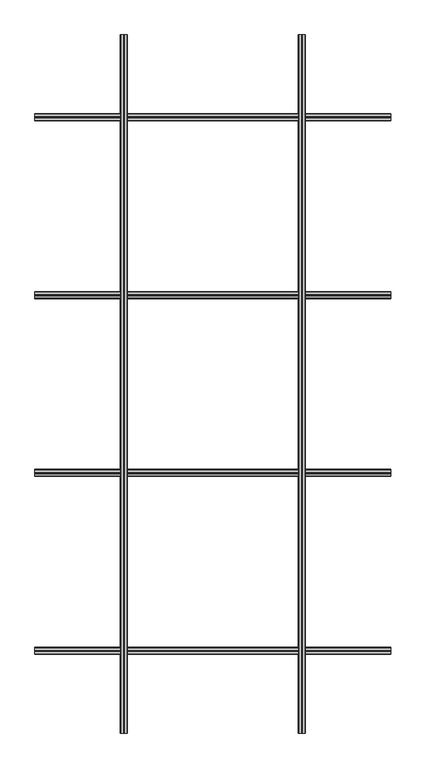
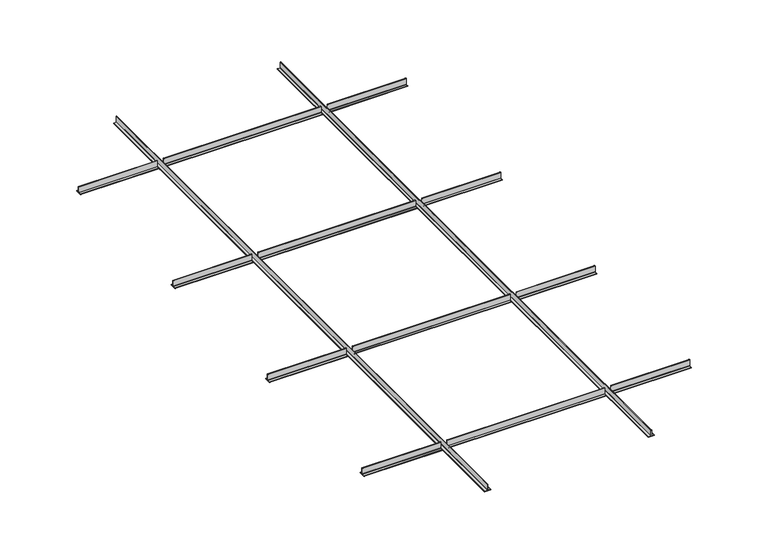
"""IFC4 building model written with IfcOpenShell, lengths in millimetres: proxy geometry, modelo_altus 2.3dm."""

from ifc_helpers import new_model, si_unit, point, frame, frame_2d, origin, place, context, project, spatial, polyline, circle_curve, trimmed, segment, composite_curve, outline, extrude, source, transform, mapped, element, save


def generic_models_6d13eddf(model_context):
    return source(origin(), model_context, "Body", "SweptSolid", [
        extrude(outline(composite_curve([segment(trimmed(circle_curve(frame_2d((956.7183647, -37.5843423)), 0.8), [point((956.7183647, -38.3843423))], [point((955.9183647, -37.5843423))], False, "CARTESIAN"), True, "CONTINUOUS"), segment(polyline([(955.9183647, -37.5843423), (955.9183647, -37.1843423)]), True, "CONTINUOUS"), segment(trimmed(circle_curve(frame_2d((956.7183647, -37.1843423)), 0.8), [point((955.9183647, -37.1843423))], [point((956.7183647, -36.3843423))], False, "CARTESIAN"), True, "CONTINUOUS"), segment(polyline([(956.7183647, -36.3843423), (966.1183647, -36.5088944)]), True, "CONTINUOUS"), segment(trimmed(circle_curve(frame_2d((966.1183647, -35.7088944)), 0.8), [point((966.1183647, -36.5088944))], [point((966.9183647, -35.7088944))], True, "CARTESIAN"), True, "CONTINUOUS"), segment(polyline([(966.9183647, -35.7088944), (966.8771783, -13.7843423)]), True, "CONTINUOUS"), segment(trimmed(circle_curve(frame_2d((967.6771783, -13.7843423)), 0.8), [point((966.8771783, -13.7843423))], [point((967.6771783, -12.9843423))], False, "CARTESIAN"), True, "CONTINUOUS"), segment(polyline([(967.6771783, -12.9843423), (968.1183647, -12.9843423)]), True, "CONTINUOUS"), segment(trimmed(circle_curve(frame_2d((968.1183647, -13.7843423)), 0.8), [point((968.1183647, -12.9843423))], [point((968.9183647, -13.7843423))], False, "CARTESIAN"), True, "CONTINUOUS"), segment(polyline([(968.9183647, -13.7843423), (968.9183647, -35.5843423)]), True, "CONTINUOUS"), segment(trimmed(circle_curve(frame_2d((969.7183647, -35.5843423)), 0.8), [point((968.9183647, -35.5843423))], [point((969.7183647, -36.3843423))], True, "CARTESIAN"), True, "CONTINUOUS"), segment(polyline([(969.7183647, -36.3843423), (979.1183647, -36.3967521)]), True, "CONTINUOUS"), segment(trimmed(circle_curve(frame_2d((979.1183647, -37.1967521)), 0.8), [point((979.1183647, -36.3967521))], [point((979.9183647, -37.1967521))], False, "CARTESIAN"), True, "CONTINUOUS"), segment(polyline([(979.9183647, -37.1967521), (979.9183647, -37.5843423)]), True, "CONTINUOUS"), segment(trimmed(circle_curve(frame_2d((979.1183647, -37.5843423)), 0.8), [point((979.9183647, -37.5843423))], [point((979.1183647, -38.3843423))], False, "CARTESIAN"), True, "CONTINUOUS"), segment(polyline([(979.1183647, -38.3843423), (956.7183647, -38.3843423)]), True, "CONTINUOUS")], self_intersect=False)), frame((-8739.7029996, 0.0, 0.0), z_axis=(1.0, 0.0, 0.0), x_axis=(0.0, 1.0, 0.0)), (0.0, 0.0, 1.0), 293.0),
        extrude(outline(composite_curve([segment(trimmed(circle_curve(frame_2d((346.7183647, -37.5843423)), 0.8), [point((346.7183647, -38.3843423))], [point((345.9183647, -37.5843423))], False, "CARTESIAN"), True, "CONTINUOUS"), segment(polyline([(345.9183647, -37.5843423), (345.9183647, -37.1843423)]), True, "CONTINUOUS"), segment(trimmed(circle_curve(frame_2d((346.7183647, -37.1843423)), 0.8), [point((345.9183647, -37.1843423))], [point((346.7183647, -36.3843423))], False, "CARTESIAN"), True, "CONTINUOUS"), segment(polyline([(346.7183647, -36.3843423), (356.1183647, -36.5088944)]), True, "CONTINUOUS"), segment(trimmed(circle_curve(frame_2d((356.1183647, -35.7088944)), 0.8), [point((356.1183647, -36.5088944))], [point((356.9183647, -35.7088944))], True, "CARTESIAN"), True, "CONTINUOUS"), segment(polyline([(356.9183647, -35.7088944), (356.8771783, -13.7843423)]), True, "CONTINUOUS"), segment(trimmed(circle_curve(frame_2d((357.6771783, -13.7843423)), 0.8), [point((356.8771783, -13.7843423))], [point((357.6771783, -12.9843423))], False, "CARTESIAN"), True, "CONTINUOUS"), segment(polyline([(357.6771783, -12.9843423), (358.1183647, -12.9843423)]), True, "CONTINUOUS"), segment(trimmed(circle_curve(frame_2d((358.1183647, -13.7843423)), 0.8), [point((358.1183647, -12.9843423))], [point((358.9183647, -13.7843423))], False, "CARTESIAN"), True, "CONTINUOUS"), segment(polyline([(358.9183647, -13.7843423), (358.9183647, -35.5843423)]), True, "CONTINUOUS"), segment(trimmed(circle_curve(frame_2d((359.7183647, -35.5843423)), 0.8), [point((358.9183647, -35.5843423))], [point((359.7183647, -36.3843423))], True, "CARTESIAN"), True, "CONTINUOUS"), segment(polyline([(359.7183647, -36.3843423), (369.1183647, -36.3967521)]), True, "CONTINUOUS"), segment(trimmed(circle_curve(frame_2d((369.1183647, -37.1967521)), 0.8), [point((369.1183647, -36.3967521))], [point((369.9183647, -37.1967521))], False, "CARTESIAN"), True, "CONTINUOUS"), segment(polyline([(369.9183647, -37.1967521), (369.9183647, -37.5843423)]), True, "CONTINUOUS"), segment(trimmed(circle_curve(frame_2d((369.1183647, -37.5843423)), 0.8), [point((369.9183647, -37.5843423))], [point((369.1183647, -38.3843423))], False, "CARTESIAN"), True, "CONTINUOUS"), segment(polyline([(369.1183647, -38.3843423), (346.7183647, -38.3843423)]), True, "CONTINUOUS")], self_intersect=False)), frame((-8739.7029996, 0.0, 0.0), z_axis=(1.0, 0.0, 0.0), x_axis=(0.0, 1.0, 0.0)), (0.0, 0.0, 1.0), 293.0),
        extrude(outline(composite_curve([segment(trimmed(circle_curve(frame_2d((-263.2816353, -37.5843423)), 0.8), [point((-263.2816353, -38.3843423))], [point((-264.0816353, -37.5843423))], False, "CARTESIAN"), True, "CONTINUOUS"), segment(polyline([(-264.0816353, -37.5843423), (-264.0816353, -37.1843423)]), True, "CONTINUOUS"), segment(trimmed(circle_curve(frame_2d((-263.2816353, -37.1843423)), 0.8), [point((-264.0816353, -37.1843423))], [point((-263.2816353, -36.3843423))], False, "CARTESIAN"), True, "CONTINUOUS"), segment(polyline([(-263.2816353, -36.3843423), (-253.8816353, -36.5088944)]), True, "CONTINUOUS"), segment(trimmed(circle_curve(frame_2d((-253.8816353, -35.7088944)), 0.8), [point((-253.8816353, -36.5088944))], [point((-253.0816353, -35.7088944))], True, "CARTESIAN"), True, "CONTINUOUS"), segment(polyline([(-253.0816353, -35.7088944), (-253.1228217, -13.7843423)]), True, "CONTINUOUS"), segment(trimmed(circle_curve(frame_2d((-252.3228217, -13.7843423)), 0.8), [point((-253.1228217, -13.7843423))], [point((-252.3228217, -12.9843423))], False, "CARTESIAN"), True, "CONTINUOUS"), segment(polyline([(-252.3228217, -12.9843423), (-251.8816353, -12.9843423)]), True, "CONTINUOUS"), segment(trimmed(circle_curve(frame_2d((-251.8816353, -13.7843423)), 0.8), [point((-251.8816353, -12.9843423))], [point((-251.0816353, -13.7843423))], False, "CARTESIAN"), True, "CONTINUOUS"), segment(polyline([(-251.0816353, -13.7843423), (-251.0816353, -35.5843423)]), True, "CONTINUOUS"), segment(trimmed(circle_curve(frame_2d((-250.2816353, -35.5843423)), 0.8), [point((-251.0816353, -35.5843423))], [point((-250.2816353, -36.3843423))], True, "CARTESIAN"), True, "CONTINUOUS"), segment(polyline([(-250.2816353, -36.3843423), (-240.8816353, -36.3967521)]), True, "CONTINUOUS"), segment(trimmed(circle_curve(frame_2d((-240.8816353, -37.1967521)), 0.8), [point((-240.8816353, -36.3967521))], [point((-240.0816353, -37.1967521))], False, "CARTESIAN"), True, "CONTINUOUS"), segment(polyline([(-240.0816353, -37.1967521), (-240.0816353, -37.5843423)]), True, "CONTINUOUS"), segment(trimmed(circle_curve(frame_2d((-240.8816353, -37.5843423)), 0.8), [point((-240.0816353, -37.5843423))], [point((-240.8816353, -38.3843423))], False, "CARTESIAN"), True, "CONTINUOUS"), segment(polyline([(-240.8816353, -38.3843423), (-263.2816353, -38.3843423)]), True, "CONTINUOUS")], self_intersect=False)), frame((-8739.7029996, 0.0, 0.0), z_axis=(1.0, 0.0, 0.0), x_axis=(0.0, 1.0, 0.0)), (0.0, 0.0, 1.0), 293.0),
        extrude(outline(composite_curve([segment(trimmed(circle_curve(frame_2d((1566.7183647, -37.5843423)), 0.8), [point((1566.7183647, -38.3843423))], [point((1565.9183647, -37.5843423))], False, "CARTESIAN"), True, "CONTINUOUS"), segment(polyline([(1565.9183647, -37.5843423), (1565.9183647, -37.1843423)]), True, "CONTINUOUS"), segment(trimmed(circle_curve(frame_2d((1566.7183647, -37.1843423)), 0.8), [point((1565.9183647, -37.1843423))], [point((1566.7183647, -36.3843423))], False, "CARTESIAN"), True, "CONTINUOUS"), segment(polyline([(1566.7183647, -36.3843423), (1576.1183647, -36.5088944)]), True, "CONTINUOUS"), segment(trimmed(circle_curve(frame_2d((1576.1183647, -35.7088944)), 0.8), [point((1576.1183647, -36.5088944))], [point((1576.9183647, -35.7088944))], True, "CARTESIAN"), True, "CONTINUOUS"), segment(polyline([(1576.9183647, -35.7088944), (1576.8771783, -13.7843423)]), True, "CONTINUOUS"), segment(trimmed(circle_curve(frame_2d((1577.6771783, -13.7843423)), 0.8), [point((1576.8771783, -13.7843423))], [point((1577.6771783, -12.9843423))], False, "CARTESIAN"), True, "CONTINUOUS"), segment(polyline([(1577.6771783, -12.9843423), (1578.1183647, -12.9843423)]), True, "CONTINUOUS"), segment(trimmed(circle_curve(frame_2d((1578.1183647, -13.7843423)), 0.8), [point((1578.1183647, -12.9843423))], [point((1578.9183647, -13.7843423))], False, "CARTESIAN"), True, "CONTINUOUS"), segment(polyline([(1578.9183647, -13.7843423), (1578.9183647, -35.5843423)]), True, "CONTINUOUS"), segment(trimmed(circle_curve(frame_2d((1579.7183647, -35.5843423)), 0.8), [point((1578.9183647, -35.5843423))], [point((1579.7183647, -36.3843423))], True, "CARTESIAN"), True, "CONTINUOUS"), segment(polyline([(1579.7183647, -36.3843423), (1589.1183647, -36.3967521)]), True, "CONTINUOUS"), segment(trimmed(circle_curve(frame_2d((1589.1183647, -37.1967521)), 0.8), [point((1589.1183647, -36.3967521))], [point((1589.9183647, -37.1967521))], False, "CARTESIAN"), True, "CONTINUOUS"), segment(polyline([(1589.9183647, -37.1967521), (1589.9183647, -37.5843423)]), True, "CONTINUOUS"), segment(trimmed(circle_curve(frame_2d((1589.1183647, -37.5843423)), 0.8), [point((1589.9183647, -37.5843423))], [point((1589.1183647, -38.3843423))], False, "CARTESIAN"), True, "CONTINUOUS"), segment(polyline([(1589.1183647, -38.3843423), (1566.7183647, -38.3843423)]), True, "CONTINUOUS")], self_intersect=False)), frame((-7812.7029996, 0.0, 0.0), z_axis=(1.0, 0.0, 0.0), x_axis=(0.0, 1.0, 0.0)), (0.0, 0.0, 1.0), 293.0),
        extrude(outline(composite_curve([segment(trimmed(circle_curve(frame_2d((956.7183647, -37.5843423)), 0.8), [point((956.7183647, -38.3843423))], [point((955.9183647, -37.5843423))], False, "CARTESIAN"), True, "CONTINUOUS"), segment(polyline([(955.9183647, -37.5843423), (955.9183647, -37.1843423)]), True, "CONTINUOUS"), segment(trimmed(circle_curve(frame_2d((956.7183647, -37.1843423)), 0.8), [point((955.9183647, -37.1843423))], [point((956.7183647, -36.3843423))], False, "CARTESIAN"), True, "CONTINUOUS"), segment(polyline([(956.7183647, -36.3843423), (966.1183647, -36.5088944)]), True, "CONTINUOUS"), segment(trimmed(circle_curve(frame_2d((966.1183647, -35.7088944)), 0.8), [point((966.1183647, -36.5088944))], [point((966.9183647, -35.7088944))], True, "CARTESIAN"), True, "CONTINUOUS"), segment(polyline([(966.9183647, -35.7088944), (966.8771783, -13.7843423)]), True, "CONTINUOUS"), segment(trimmed(circle_curve(frame_2d((967.6771783, -13.7843423)), 0.8), [point((966.8771783, -13.7843423))], [point((967.6771783, -12.9843423))], False, "CARTESIAN"), True, "CONTINUOUS"), segment(polyline([(967.6771783, -12.9843423), (968.1183647, -12.9843423)]), True, "CONTINUOUS"), segment(trimmed(circle_curve(frame_2d((968.1183647, -13.7843423)), 0.8), [point((968.1183647, -12.9843423))], [point((968.9183647, -13.7843423))], False, "CARTESIAN"), True, "CONTINUOUS"), segment(polyline([(968.9183647, -13.7843423), (968.9183647, -35.5843423)]), True, "CONTINUOUS"), segment(trimmed(circle_curve(frame_2d((969.7183647, -35.5843423)), 0.8), [point((968.9183647, -35.5843423))], [point((969.7183647, -36.3843423))], True, "CARTESIAN"), True, "CONTINUOUS"), segment(polyline([(969.7183647, -36.3843423), (979.1183647, -36.3967521)]), True, "CONTINUOUS"), segment(trimmed(circle_curve(frame_2d((979.1183647, -37.1967521)), 0.8), [point((979.1183647, -36.3967521))], [point((979.9183647, -37.1967521))], False, "CARTESIAN"), True, "CONTINUOUS"), segment(polyline([(979.9183647, -37.1967521), (979.9183647, -37.5843423)]), True, "CONTINUOUS"), segment(trimmed(circle_curve(frame_2d((979.1183647, -37.5843423)), 0.8), [point((979.9183647, -37.5843423))], [point((979.1183647, -38.3843423))], False, "CARTESIAN"), True, "CONTINUOUS"), segment(polyline([(979.1183647, -38.3843423), (956.7183647, -38.3843423)]), True, "CONTINUOUS")], self_intersect=False)), frame((-7812.7029996, 0.0, 0.0), z_axis=(1.0, 0.0, 0.0), x_axis=(0.0, 1.0, 0.0)), (0.0, 0.0, 1.0), 293.0),
        extrude(outline(composite_curve([segment(trimmed(circle_curve(frame_2d((346.7183647, -37.5843423)), 0.8), [point((346.7183647, -38.3843423))], [point((345.9183647, -37.5843423))], False, "CARTESIAN"), True, "CONTINUOUS"), segment(polyline([(345.9183647, -37.5843423), (345.9183647, -37.1843423)]), True, "CONTINUOUS"), segment(trimmed(circle_curve(frame_2d((346.7183647, -37.1843423)), 0.8), [point((345.9183647, -37.1843423))], [point((346.7183647, -36.3843423))], False, "CARTESIAN"), True, "CONTINUOUS"), segment(polyline([(346.7183647, -36.3843423), (356.1183647, -36.5088944)]), True, "CONTINUOUS"), segment(trimmed(circle_curve(frame_2d((356.1183647, -35.7088944)), 0.8), [point((356.1183647, -36.5088944))], [point((356.9183647, -35.7088944))], True, "CARTESIAN"), True, "CONTINUOUS"), segment(polyline([(356.9183647, -35.7088944), (356.8771783, -13.7843423)]), True, "CONTINUOUS"), segment(trimmed(circle_curve(frame_2d((357.6771783, -13.7843423)), 0.8), [point((356.8771783, -13.7843423))], [point((357.6771783, -12.9843423))], False, "CARTESIAN"), True, "CONTINUOUS"), segment(polyline([(357.6771783, -12.9843423), (358.1183647, -12.9843423)]), True, "CONTINUOUS"), segment(trimmed(circle_curve(frame_2d((358.1183647, -13.7843423)), 0.8), [point((358.1183647, -12.9843423))], [point((358.9183647, -13.7843423))], False, "CARTESIAN"), True, "CONTINUOUS"), segment(polyline([(358.9183647, -13.7843423), (358.9183647, -35.5843423)]), True, "CONTINUOUS"), segment(trimmed(circle_curve(frame_2d((359.7183647, -35.5843423)), 0.8), [point((358.9183647, -35.5843423))], [point((359.7183647, -36.3843423))], True, "CARTESIAN"), True, "CONTINUOUS"), segment(polyline([(359.7183647, -36.3843423), (369.1183647, -36.3967521)]), True, "CONTINUOUS"), segment(trimmed(circle_curve(frame_2d((369.1183647, -37.1967521)), 0.8), [point((369.1183647, -36.3967521))], [point((369.9183647, -37.1967521))], False, "CARTESIAN"), True, "CONTINUOUS"), segment(polyline([(369.9183647, -37.1967521), (369.9183647, -37.5843423)]), True, "CONTINUOUS"), segment(trimmed(circle_curve(frame_2d((369.1183647, -37.5843423)), 0.8), [point((369.9183647, -37.5843423))], [point((369.1183647, -38.3843423))], False, "CARTESIAN"), True, "CONTINUOUS"), segment(polyline([(369.1183647, -38.3843423), (346.7183647, -38.3843423)]), True, "CONTINUOUS")], self_intersect=False)), frame((-7812.7029996, 0.0, 0.0), z_axis=(1.0, 0.0, 0.0), x_axis=(0.0, 1.0, 0.0)), (0.0, 0.0, 1.0), 293.0),
        extrude(outline(composite_curve([segment(trimmed(circle_curve(frame_2d((-263.2816353, -37.5843423)), 0.8), [point((-263.2816353, -38.3843423))], [point((-264.0816353, -37.5843423))], False, "CARTESIAN"), True, "CONTINUOUS"), segment(polyline([(-264.0816353, -37.5843423), (-264.0816353, -37.1843423)]), True, "CONTINUOUS"), segment(trimmed(circle_curve(frame_2d((-263.2816353, -37.1843423)), 0.8), [point((-264.0816353, -37.1843423))], [point((-263.2816353, -36.3843423))], False, "CARTESIAN"), True, "CONTINUOUS"), segment(polyline([(-263.2816353, -36.3843423), (-253.8816353, -36.5088944)]), True, "CONTINUOUS"), segment(trimmed(circle_curve(frame_2d((-253.8816353, -35.7088944)), 0.8), [point((-253.8816353, -36.5088944))], [point((-253.0816353, -35.7088944))], True, "CARTESIAN"), True, "CONTINUOUS"), segment(polyline([(-253.0816353, -35.7088944), (-253.1228217, -13.7843423)]), True, "CONTINUOUS"), segment(trimmed(circle_curve(frame_2d((-252.3228217, -13.7843423)), 0.8), [point((-253.1228217, -13.7843423))], [point((-252.3228217, -12.9843423))], False, "CARTESIAN"), True, "CONTINUOUS"), segment(polyline([(-252.3228217, -12.9843423), (-251.8816353, -12.9843423)]), True, "CONTINUOUS"), segment(trimmed(circle_curve(frame_2d((-251.8816353, -13.7843423)), 0.8), [point((-251.8816353, -12.9843423))], [point((-251.0816353, -13.7843423))], False, "CARTESIAN"), True, "CONTINUOUS"), segment(polyline([(-251.0816353, -13.7843423), (-251.0816353, -35.5843423)]), True, "CONTINUOUS"), segment(trimmed(circle_curve(frame_2d((-250.2816353, -35.5843423)), 0.8), [point((-251.0816353, -35.5843423))], [point((-250.2816353, -36.3843423))], True, "CARTESIAN"), True, "CONTINUOUS"), segment(polyline([(-250.2816353, -36.3843423), (-240.8816353, -36.3967521)]), True, "CONTINUOUS"), segment(trimmed(circle_curve(frame_2d((-240.8816353, -37.1967521)), 0.8), [point((-240.8816353, -36.3967521))], [point((-240.0816353, -37.1967521))], False, "CARTESIAN"), True, "CONTINUOUS"), segment(polyline([(-240.0816353, -37.1967521), (-240.0816353, -37.5843423)]), True, "CONTINUOUS"), segment(trimmed(circle_curve(frame_2d((-240.8816353, -37.5843423)), 0.8), [point((-240.0816353, -37.5843423))], [point((-240.8816353, -38.3843423))], False, "CARTESIAN"), True, "CONTINUOUS"), segment(polyline([(-240.8816353, -38.3843423), (-263.2816353, -38.3843423)]), True, "CONTINUOUS")], self_intersect=False)), frame((-7812.7029996, 0.0, 0.0), z_axis=(1.0, 0.0, 0.0), x_axis=(0.0, 1.0, 0.0)), (0.0, 0.0, 1.0), 293.0),
        extrude(outline(composite_curve([segment(trimmed(circle_curve(frame_2d((1566.7183647, -37.5843423)), 0.8), [point((1566.7183647, -38.3843423))], [point((1565.9183647, -37.5843423))], False, "CARTESIAN"), True, "CONTINUOUS"), segment(polyline([(1565.9183647, -37.5843423), (1565.9183647, -37.1843423)]), True, "CONTINUOUS"), segment(trimmed(circle_curve(frame_2d((1566.7183647, -37.1843423)), 0.8), [point((1565.9183647, -37.1843423))], [point((1566.7183647, -36.3843423))], False, "CARTESIAN"), True, "CONTINUOUS"), segment(polyline([(1566.7183647, -36.3843423), (1576.1183647, -36.5088944)]), True, "CONTINUOUS"), segment(trimmed(circle_curve(frame_2d((1576.1183647, -35.7088944)), 0.8), [point((1576.1183647, -36.5088944))], [point((1576.9183647, -35.7088944))], True, "CARTESIAN"), True, "CONTINUOUS"), segment(polyline([(1576.9183647, -35.7088944), (1576.8771783, -13.7843423)]), True, "CONTINUOUS"), segment(trimmed(circle_curve(frame_2d((1577.6771783, -13.7843423)), 0.8), [point((1576.8771783, -13.7843423))], [point((1577.6771783, -12.9843423))], False, "CARTESIAN"), True, "CONTINUOUS"), segment(polyline([(1577.6771783, -12.9843423), (1578.1183647, -12.9843423)]), True, "CONTINUOUS"), segment(trimmed(circle_curve(frame_2d((1578.1183647, -13.7843423)), 0.8), [point((1578.1183647, -12.9843423))], [point((1578.9183647, -13.7843423))], False, "CARTESIAN"), True, "CONTINUOUS"), segment(polyline([(1578.9183647, -13.7843423), (1578.9183647, -35.5843423)]), True, "CONTINUOUS"), segment(trimmed(circle_curve(frame_2d((1579.7183647, -35.5843423)), 0.8), [point((1578.9183647, -35.5843423))], [point((1579.7183647, -36.3843423))], True, "CARTESIAN"), True, "CONTINUOUS"), segment(polyline([(1579.7183647, -36.3843423), (1589.1183647, -36.3967521)]), True, "CONTINUOUS"), segment(trimmed(circle_curve(frame_2d((1589.1183647, -37.1967521)), 0.8), [point((1589.1183647, -36.3967521))], [point((1589.9183647, -37.1967521))], False, "CARTESIAN"), True, "CONTINUOUS"), segment(polyline([(1589.9183647, -37.1967521), (1589.9183647, -37.5843423)]), True, "CONTINUOUS"), segment(trimmed(circle_curve(frame_2d((1589.1183647, -37.5843423)), 0.8), [point((1589.9183647, -37.5843423))], [point((1589.1183647, -38.3843423))], False, "CARTESIAN"), True, "CONTINUOUS"), segment(polyline([(1589.1183647, -38.3843423), (1566.7183647, -38.3843423)]), True, "CONTINUOUS")], self_intersect=False)), frame((-8739.7029996, 0.0, 0.0), z_axis=(1.0, 0.0, 0.0), x_axis=(0.0, 1.0, 0.0)), (0.0, 0.0, 1.0), 293.0),
        extrude(outline(composite_curve([segment(trimmed(circle_curve(frame_2d((1566.7183647, -37.5843423)), 0.8), [point((1566.7183647, -38.3843423))], [point((1565.9183647, -37.5843423))], False, "CARTESIAN"), True, "CONTINUOUS"), segment(polyline([(1565.9183647, -37.5843423), (1565.9183647, -37.1843423)]), True, "CONTINUOUS"), segment(trimmed(circle_curve(frame_2d((1566.7183647, -37.1843423)), 0.8), [point((1565.9183647, -37.1843423))], [point((1566.7183647, -36.3843423))], False, "CARTESIAN"), True, "CONTINUOUS"), segment(polyline([(1566.7183647, -36.3843423), (1576.1183647, -36.5088944)]), True, "CONTINUOUS"), segment(trimmed(circle_curve(frame_2d((1576.1183647, -35.7088944)), 0.8), [point((1576.1183647, -36.5088944))], [point((1576.9183647, -35.7088944))], True, "CARTESIAN"), True, "CONTINUOUS"), segment(polyline([(1576.9183647, -35.7088944), (1576.8771783, -13.7843423)]), True, "CONTINUOUS"), segment(trimmed(circle_curve(frame_2d((1577.6771783, -13.7843423)), 0.8), [point((1576.8771783, -13.7843423))], [point((1577.6771783, -12.9843423))], False, "CARTESIAN"), True, "CONTINUOUS"), segment(polyline([(1577.6771783, -12.9843423), (1578.1183647, -12.9843423)]), True, "CONTINUOUS"), segment(trimmed(circle_curve(frame_2d((1578.1183647, -13.7843423)), 0.8), [point((1578.1183647, -12.9843423))], [point((1578.9183647, -13.7843423))], False, "CARTESIAN"), True, "CONTINUOUS"), segment(polyline([(1578.9183647, -13.7843423), (1578.9183647, -35.5843423)]), True, "CONTINUOUS"), segment(trimmed(circle_curve(frame_2d((1579.7183647, -35.5843423)), 0.8), [point((1578.9183647, -35.5843423))], [point((1579.7183647, -36.3843423))], True, "CARTESIAN"), True, "CONTINUOUS"), segment(polyline([(1579.7183647, -36.3843423), (1589.1183647, -36.3967521)]), True, "CONTINUOUS"), segment(trimmed(circle_curve(frame_2d((1589.1183647, -37.1967521)), 0.8), [point((1589.1183647, -36.3967521))], [point((1589.9183647, -37.1967521))], False, "CARTESIAN"), True, "CONTINUOUS"), segment(polyline([(1589.9183647, -37.1967521), (1589.9183647, -37.5843423)]), True, "CONTINUOUS"), segment(trimmed(circle_curve(frame_2d((1589.1183647, -37.5843423)), 0.8), [point((1589.9183647, -37.5843423))], [point((1589.1183647, -38.3843423))], False, "CARTESIAN"), True, "CONTINUOUS"), segment(polyline([(1589.1183647, -38.3843423), (1566.7183647, -38.3843423)]), True, "CONTINUOUS")], self_intersect=False)), frame((-8422.7029996, 0.0, 0.0), z_axis=(1.0, 0.0, 0.0), x_axis=(0.0, 1.0, 0.0)), (0.0, 0.0, 1.0), 586.0),
        extrude(outline(composite_curve([segment(trimmed(circle_curve(frame_2d((956.7183647, -37.5843423)), 0.8), [point((956.7183647, -38.3843423))], [point((955.9183647, -37.5843423))], False, "CARTESIAN"), True, "CONTINUOUS"), segment(polyline([(955.9183647, -37.5843423), (955.9183647, -37.1843423)]), True, "CONTINUOUS"), segment(trimmed(circle_curve(frame_2d((956.7183647, -37.1843423)), 0.8), [point((955.9183647, -37.1843423))], [point((956.7183647, -36.3843423))], False, "CARTESIAN"), True, "CONTINUOUS"), segment(polyline([(956.7183647, -36.3843423), (966.1183647, -36.5088944)]), True, "CONTINUOUS"), segment(trimmed(circle_curve(frame_2d((966.1183647, -35.7088944)), 0.8), [point((966.1183647, -36.5088944))], [point((966.9183647, -35.7088944))], True, "CARTESIAN"), True, "CONTINUOUS"), segment(polyline([(966.9183647, -35.7088944), (966.8771783, -13.7843423)]), True, "CONTINUOUS"), segment(trimmed(circle_curve(frame_2d((967.6771783, -13.7843423)), 0.8), [point((966.8771783, -13.7843423))], [point((967.6771783, -12.9843423))], False, "CARTESIAN"), True, "CONTINUOUS"), segment(polyline([(967.6771783, -12.9843423), (968.1183647, -12.9843423)]), True, "CONTINUOUS"), segment(trimmed(circle_curve(frame_2d((968.1183647, -13.7843423)), 0.8), [point((968.1183647, -12.9843423))], [point((968.9183647, -13.7843423))], False, "CARTESIAN"), True, "CONTINUOUS"), segment(polyline([(968.9183647, -13.7843423), (968.9183647, -35.5843423)]), True, "CONTINUOUS"), segment(trimmed(circle_curve(frame_2d((969.7183647, -35.5843423)), 0.8), [point((968.9183647, -35.5843423))], [point((969.7183647, -36.3843423))], True, "CARTESIAN"), True, "CONTINUOUS"), segment(polyline([(969.7183647, -36.3843423), (979.1183647, -36.3967521)]), True, "CONTINUOUS"), segment(trimmed(circle_curve(frame_2d((979.1183647, -37.1967521)), 0.8), [point((979.1183647, -36.3967521))], [point((979.9183647, -37.1967521))], False, "CARTESIAN"), True, "CONTINUOUS"), segment(polyline([(979.9183647, -37.1967521), (979.9183647, -37.5843423)]), True, "CONTINUOUS"), segment(trimmed(circle_curve(frame_2d((979.1183647, -37.5843423)), 0.8), [point((979.9183647, -37.5843423))], [point((979.1183647, -38.3843423))], False, "CARTESIAN"), True, "CONTINUOUS"), segment(polyline([(979.1183647, -38.3843423), (956.7183647, -38.3843423)]), True, "CONTINUOUS")], self_intersect=False)), frame((-8422.7029996, 0.0, 0.0), z_axis=(1.0, 0.0, 0.0), x_axis=(0.0, 1.0, 0.0)), (0.0, 0.0, 1.0), 586.0),
        extrude(outline(composite_curve([segment(trimmed(circle_curve(frame_2d((346.7183647, -37.5843423)), 0.8), [point((346.7183647, -38.3843423))], [point((345.9183647, -37.5843423))], False, "CARTESIAN"), True, "CONTINUOUS"), segment(polyline([(345.9183647, -37.5843423), (345.9183647, -37.1843423)]), True, "CONTINUOUS"), segment(trimmed(circle_curve(frame_2d((346.7183647, -37.1843423)), 0.8), [point((345.9183647, -37.1843423))], [point((346.7183647, -36.3843423))], False, "CARTESIAN"), True, "CONTINUOUS"), segment(polyline([(346.7183647, -36.3843423), (356.1183647, -36.5088944)]), True, "CONTINUOUS"), segment(trimmed(circle_curve(frame_2d((356.1183647, -35.7088944)), 0.8), [point((356.1183647, -36.5088944))], [point((356.9183647, -35.7088944))], True, "CARTESIAN"), True, "CONTINUOUS"), segment(polyline([(356.9183647, -35.7088944), (356.8771783, -13.7843423)]), True, "CONTINUOUS"), segment(trimmed(circle_curve(frame_2d((357.6771783, -13.7843423)), 0.8), [point((356.8771783, -13.7843423))], [point((357.6771783, -12.9843423))], False, "CARTESIAN"), True, "CONTINUOUS"), segment(polyline([(357.6771783, -12.9843423), (358.1183647, -12.9843423)]), True, "CONTINUOUS"), segment(trimmed(circle_curve(frame_2d((358.1183647, -13.7843423)), 0.8), [point((358.1183647, -12.9843423))], [point((358.9183647, -13.7843423))], False, "CARTESIAN"), True, "CONTINUOUS"), segment(polyline([(358.9183647, -13.7843423), (358.9183647, -35.5843423)]), True, "CONTINUOUS"), segment(trimmed(circle_curve(frame_2d((359.7183647, -35.5843423)), 0.8), [point((358.9183647, -35.5843423))], [point((359.7183647, -36.3843423))], True, "CARTESIAN"), True, "CONTINUOUS"), segment(polyline([(359.7183647, -36.3843423), (369.1183647, -36.3967521)]), True, "CONTINUOUS"), segment(trimmed(circle_curve(frame_2d((369.1183647, -37.1967521)), 0.8), [point((369.1183647, -36.3967521))], [point((369.9183647, -37.1967521))], False, "CARTESIAN"), True, "CONTINUOUS"), segment(polyline([(369.9183647, -37.1967521), (369.9183647, -37.5843423)]), True, "CONTINUOUS"), segment(trimmed(circle_curve(frame_2d((369.1183647, -37.5843423)), 0.8), [point((369.9183647, -37.5843423))], [point((369.1183647, -38.3843423))], False, "CARTESIAN"), True, "CONTINUOUS"), segment(polyline([(369.1183647, -38.3843423), (346.7183647, -38.3843423)]), True, "CONTINUOUS")], self_intersect=False)), frame((-8422.7029996, 0.0, 0.0), z_axis=(1.0, 0.0, 0.0), x_axis=(0.0, 1.0, 0.0)), (0.0, 0.0, 1.0), 586.0),
        extrude(outline(composite_curve([segment(trimmed(circle_curve(frame_2d((-263.2816353, -37.5843423)), 0.8), [point((-263.2816353, -38.3843423))], [point((-264.0816353, -37.5843423))], False, "CARTESIAN"), True, "CONTINUOUS"), segment(polyline([(-264.0816353, -37.5843423), (-264.0816353, -37.1843423)]), True, "CONTINUOUS"), segment(trimmed(circle_curve(frame_2d((-263.2816353, -37.1843423)), 0.8), [point((-264.0816353, -37.1843423))], [point((-263.2816353, -36.3843423))], False, "CARTESIAN"), True, "CONTINUOUS"), segment(polyline([(-263.2816353, -36.3843423), (-253.8816353, -36.5088944)]), True, "CONTINUOUS"), segment(trimmed(circle_curve(frame_2d((-253.8816353, -35.7088944)), 0.8), [point((-253.8816353, -36.5088944))], [point((-253.0816353, -35.7088944))], True, "CARTESIAN"), True, "CONTINUOUS"), segment(polyline([(-253.0816353, -35.7088944), (-253.1228217, -13.7843423)]), True, "CONTINUOUS"), segment(trimmed(circle_curve(frame_2d((-252.3228217, -13.7843423)), 0.8), [point((-253.1228217, -13.7843423))], [point((-252.3228217, -12.9843423))], False, "CARTESIAN"), True, "CONTINUOUS"), segment(polyline([(-252.3228217, -12.9843423), (-251.8816353, -12.9843423)]), True, "CONTINUOUS"), segment(trimmed(circle_curve(frame_2d((-251.8816353, -13.7843423)), 0.8), [point((-251.8816353, -12.9843423))], [point((-251.0816353, -13.7843423))], False, "CARTESIAN"), True, "CONTINUOUS"), segment(polyline([(-251.0816353, -13.7843423), (-251.0816353, -35.5843423)]), True, "CONTINUOUS"), segment(trimmed(circle_curve(frame_2d((-250.2816353, -35.5843423)), 0.8), [point((-251.0816353, -35.5843423))], [point((-250.2816353, -36.3843423))], True, "CARTESIAN"), True, "CONTINUOUS"), segment(polyline([(-250.2816353, -36.3843423), (-240.8816353, -36.3967521)]), True, "CONTINUOUS"), segment(trimmed(circle_curve(frame_2d((-240.8816353, -37.1967521)), 0.8), [point((-240.8816353, -36.3967521))], [point((-240.0816353, -37.1967521))], False, "CARTESIAN"), True, "CONTINUOUS"), segment(polyline([(-240.0816353, -37.1967521), (-240.0816353, -37.5843423)]), True, "CONTINUOUS"), segment(trimmed(circle_curve(frame_2d((-240.8816353, -37.5843423)), 0.8), [point((-240.0816353, -37.5843423))], [point((-240.8816353, -38.3843423))], False, "CARTESIAN"), True, "CONTINUOUS"), segment(polyline([(-240.8816353, -38.3843423), (-263.2816353, -38.3843423)]), True, "CONTINUOUS")], self_intersect=False)), frame((-8422.7029996, 0.0, 0.0), z_axis=(1.0, 0.0, 0.0), x_axis=(0.0, 1.0, 0.0)), (0.0, 0.0, 1.0), 586.0),
        extrude(outline(composite_curve([segment(polyline([(0.0, 0.0), (0.0, 22.4)]), True, "CONTINUOUS"), segment(trimmed(circle_curve(frame_2d((0.8, 22.4)), 0.8), [point((0.0, 22.4))], [point((0.8, 23.2))], False, "CARTESIAN"), True, "CONTINUOUS"), segment(polyline([(0.8, 23.2), (1.1875902, 23.2)]), True, "CONTINUOUS"), segment(trimmed(circle_curve(frame_2d((1.1875902, 22.4)), 0.8), [point((1.1875902, 23.2))], [point((1.9875902, 22.4))], False, "CARTESIAN"), True, "CONTINUOUS"), segment(polyline([(1.9875902, 22.4), (2.0, 13.0)]), True, "CONTINUOUS"), segment(trimmed(circle_curve(frame_2d((2.8, 13.0)), 0.8), [point((2.0, 13.0))], [point((2.8, 12.2))], True, "CARTESIAN"), True, "CONTINUOUS"), segment(polyline([(2.8, 12.2), (24.6, 12.2)]), True, "CONTINUOUS"), segment(trimmed(circle_curve(frame_2d((24.6, 11.4)), 0.8), [point((24.6, 12.2))], [point((25.4, 11.4))], False, "CARTESIAN"), True, "CONTINUOUS"), segment(polyline([(25.4, 11.4), (25.4, 10.9588136)]), True, "CONTINUOUS"), segment(trimmed(circle_curve(frame_2d((24.6, 10.9588136)), 0.8), [point((25.4, 10.9588136))], [point((24.6, 10.1588136))], False, "CARTESIAN"), True, "CONTINUOUS"), segment(polyline([(24.6, 10.1588136), (2.675448, 10.2)]), True, "CONTINUOUS"), segment(trimmed(circle_curve(frame_2d((2.675448, 9.4)), 0.8), [point((2.675448, 10.2))], [point((1.875448, 9.4))], True, "CARTESIAN"), True, "CONTINUOUS"), segment(polyline([(1.875448, 9.4), (2.0, 0.0)]), True, "CONTINUOUS"), segment(trimmed(circle_curve(frame_2d((1.2, 0.0)), 0.8), [point((2.0, 0.0))], [point((1.2, -0.8))], False, "CARTESIAN"), True, "CONTINUOUS"), segment(polyline([(1.2, -0.8), (0.8, -0.8)]), True, "CONTINUOUS"), segment(trimmed(circle_curve(frame_2d((0.8, 0.0)), 0.8), [point((0.8, -0.8))], [point((0.0, 0.0))], False, "CARTESIAN"), True, "CONTINUOUS")], self_intersect=False)), frame((-7813.5029996, 1859.5424582, -38.3879518), z_axis=(0.0, -0.9999999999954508, 3.0163753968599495e-06), x_axis=(0.0, 3.0163753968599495e-06, 0.9999999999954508)), (0.0, 0.0, 1.0), 2393.2481777),
        extrude(outline(composite_curve([segment(trimmed(circle_curve(frame_2d((-37.5843423, -8423.5029996)), 0.8), [point((-38.3843423, -8423.5029996))], [point((-37.5843423, -8422.7029996))], False, "CARTESIAN"), True, "CONTINUOUS"), segment(polyline([(-37.5843423, -8422.7029996), (-37.1843423, -8422.7029996)]), True, "CONTINUOUS"), segment(trimmed(circle_curve(frame_2d((-37.1843423, -8423.5029996)), 0.8), [point((-37.1843423, -8422.7029996))], [point((-36.3843423, -8423.5029996))], False, "CARTESIAN"), True, "CONTINUOUS"), segment(polyline([(-36.3843423, -8423.5029996), (-36.5088944, -8432.9029996)]), True, "CONTINUOUS"), segment(trimmed(circle_curve(frame_2d((-35.7088944, -8432.9029996)), 0.8), [point((-36.5088944, -8432.9029996))], [point((-35.7088944, -8433.7029996))], True, "CARTESIAN"), True, "CONTINUOUS"), segment(polyline([(-35.7088944, -8433.7029996), (-13.7843423, -8433.6618132)]), True, "CONTINUOUS"), segment(trimmed(circle_curve(frame_2d((-13.7843423, -8434.4618132)), 0.8), [point((-13.7843423, -8433.6618132))], [point((-12.9843423, -8434.4618132))], False, "CARTESIAN"), True, "CONTINUOUS"), segment(polyline([(-12.9843423, -8434.4618132), (-12.9843423, -8434.9029996)]), True, "CONTINUOUS"), segment(trimmed(circle_curve(frame_2d((-13.7843423, -8434.9029996)), 0.8), [point((-12.9843423, -8434.9029996))], [point((-13.7843423, -8435.7029996))], False, "CARTESIAN"), True, "CONTINUOUS"), segment(polyline([(-13.7843423, -8435.7029996), (-35.5843423, -8435.7029996)]), True, "CONTINUOUS"), segment(trimmed(circle_curve(frame_2d((-35.5843423, -8436.5029996)), 0.8), [point((-35.5843423, -8435.7029996))], [point((-36.3843423, -8436.5029996))], True, "CARTESIAN"), True, "CONTINUOUS"), segment(polyline([(-36.3843423, -8436.5029996), (-36.3967521, -8445.9029996)]), True, "CONTINUOUS"), segment(trimmed(circle_curve(frame_2d((-37.1967521, -8445.9029996)), 0.8), [point((-36.3967521, -8445.9029996))], [point((-37.1967521, -8446.7029996))], False, "CARTESIAN"), True, "CONTINUOUS"), segment(polyline([(-37.1967521, -8446.7029996), (-37.5843423, -8446.7029996)]), True, "CONTINUOUS"), segment(trimmed(circle_curve(frame_2d((-37.5843423, -8445.9029996)), 0.8), [point((-37.5843423, -8446.7029996))], [point((-38.3843423, -8445.9029996))], False, "CARTESIAN"), True, "CONTINUOUS"), segment(polyline([(-38.3843423, -8445.9029996), (-38.3843423, -8423.5029996)]), True, "CONTINUOUS")], self_intersect=False)), frame((0.0, -533.7057324, 0.0), z_axis=(0.0, 1.0, 0.0), x_axis=(0.0, 0.0, 1.0)), (0.0, 0.0, 1.0), 2393.2481942),
    ])


if __name__ == "__main__":
    model = new_model("IFC4")
    model_context = context("Model", 3, world=origin())
    ifc_project = project(units=[si_unit("LENGTHUNIT", "METRE", prefix="MILLI")], contexts=[model_context])
    site = spatial("IfcSite", under=ifc_project)
    building = spatial("IfcBuilding", under=site)
    placement = place(None, origin())
    generic_models_shape = generic_models_6d13eddf(model_context)
    element("IfcBuildingElementProxy", 1, Name="modelo_altus 2.3dm", ObjectType="modelo_altus 2.3dm", at=placement, inside=building, context=model_context, shape_type="MappedRepresentation", body=[
        mapped(generic_models_shape, transform((0.0, 0.0, 0.0), x_axis=(1.0, 0.0, 0.0), y_axis=(0.0, 1.0, 0.0), z_axis=(0.0, 0.0, 1.0))),
    ])
    save(model, "model.ifc")
